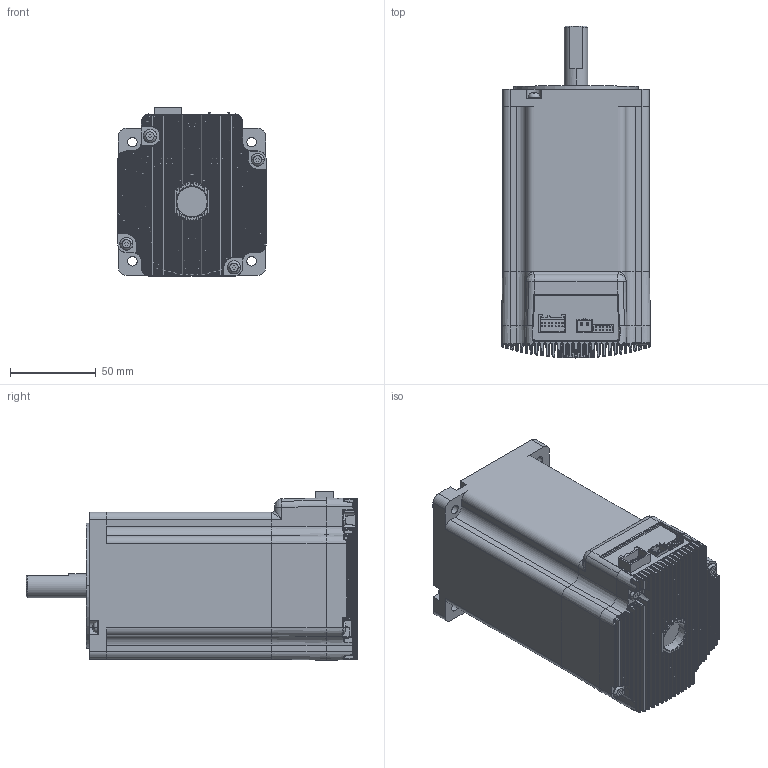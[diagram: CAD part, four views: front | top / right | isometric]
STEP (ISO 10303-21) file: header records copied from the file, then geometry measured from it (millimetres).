
FILE_DESCRIPTION(('MDrive34Plus Triple Stack'),'1');
FILE_NAME('MDrive34Plus Triple Stack.stp',' ',('Kubotek KeyCreator 7.0.1'),('Intelligent Motion Systems, Inc., Paul Bordua, C.I.D.'),'ACIS Interop R17','Kubotek KeyCreator V7.0.1 (6402)','Kubotek USA, Inc.');
FILE_SCHEMA(('automotive_design'));
Length unit declared in the file: inch
Products named in the file (1): New 3D Block[1]
Bounding box: 86.96 x 193.8 x 98.34 mm (x, y, z)
Volume: 1040584.6 mm3; surface area: 93431.7 mm2
Topology: 1 solids, 1 shells, 1697 faces, 4084 edges, 2426 vertices
Faces by surface type: cylinder 582, plane 435, bspline 416, sphere 132, cone 83, torus 49
Entity records: 138943 total; most frequent: CARTESIAN_POINT 51160, PRESENTATION_STYLE_ASSIGNMENT 9699, COLOUR_RGB 9699, STYLED_ITEM 8199, ORIENTED_EDGE 8150, DIRECTION 6227, CURVE_STYLE 5575, DRAUGHTING_PRE_DEFINED_CURVE_FONT 5497
